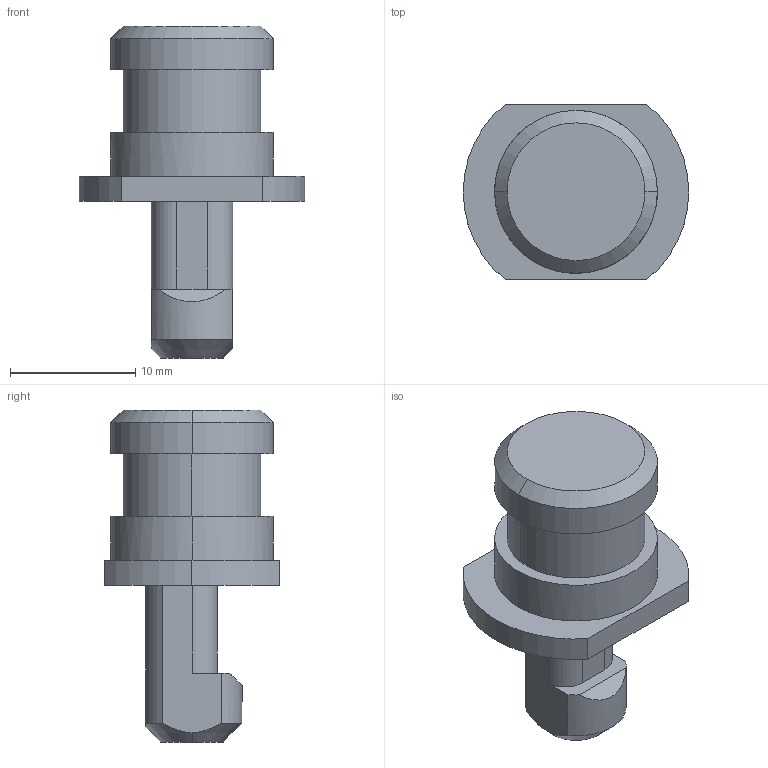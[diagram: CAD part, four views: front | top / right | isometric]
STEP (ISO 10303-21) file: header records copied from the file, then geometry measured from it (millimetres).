
FILE_DESCRIPTION(('CATIA V5 STEP Exchange'),'2;1');
FILE_NAME('C:\Users\Administrator\Desktop\定位销-S1.stp','2020-12-03T10:07:04+00:00',('none'),('none'),'CATIA Version 5 Release 20 GA (IN-10)','CATIA V5 STEP AP203','none');
FILE_SCHEMA(('CONFIG_CONTROL_DESIGN'));
Length unit declared in the file: millimetre
Products named in the file (1): 定位销-S1
Assembly tree (2 placements, depth 2):
  定位销-S1
    #58
    #617
Bounding box: 18 x 14 x 26.5 mm (x, y, z)
Volume: 2987.5 mm3; surface area: 1940.7 mm2
Topology: 3 solids, 3 shells, 44 faces, 97 edges, 64 vertices
Faces by surface type: cylinder 21, plane 19, cone 4
Entity records: 1484 total; most frequent: CARTESIAN_POINT 459, ORIENTED_EDGE 194, DIRECTION 176, EDGE_CURVE 97, AXIS2_PLACEMENT_3D 84, VERTEX_POINT 64, EDGE_LOOP 49, VECTOR 44
